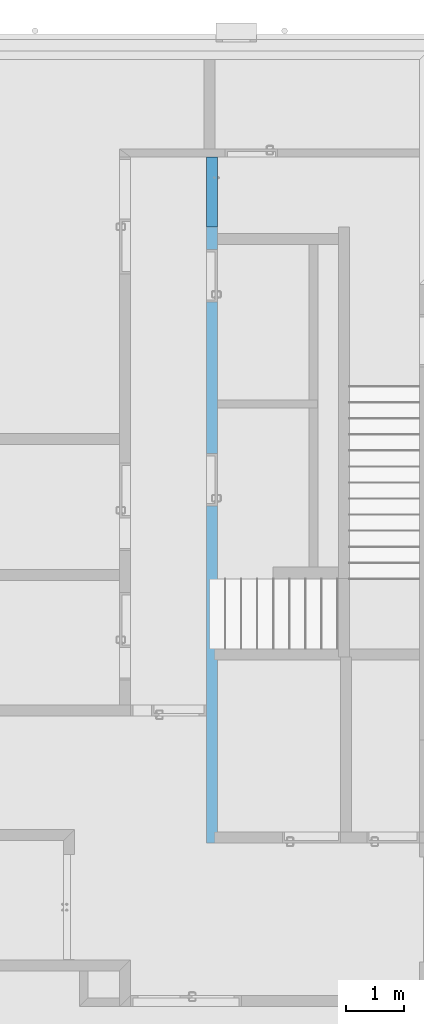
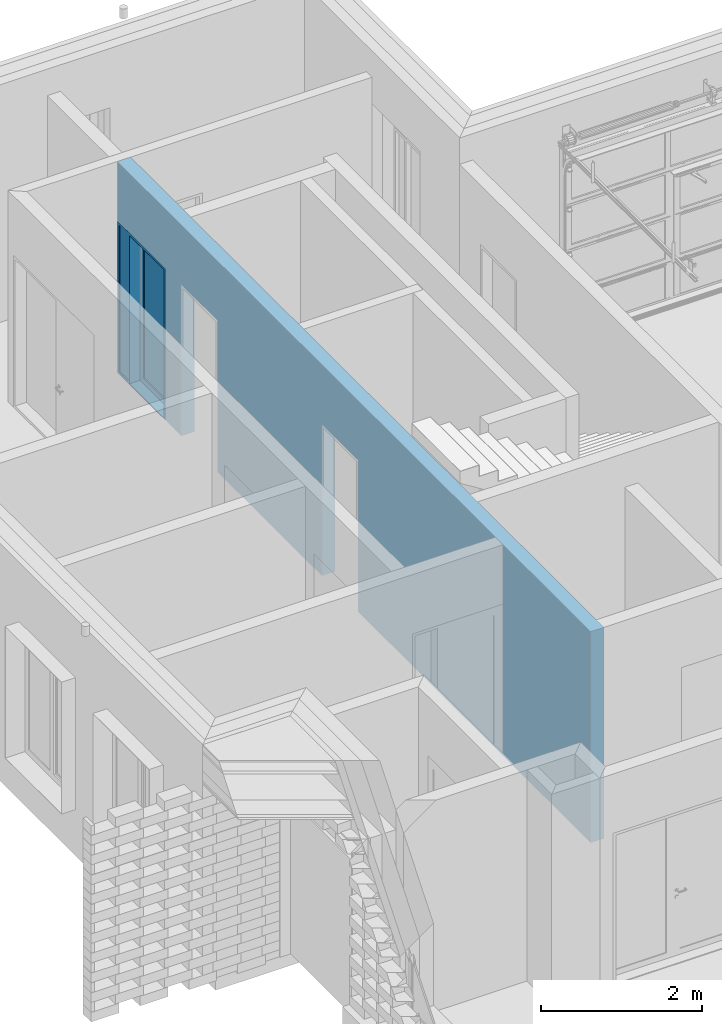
# One storey, part 30 of 62: 1 building element part, 3 openings, 1 element without a shape of its own, plus 1 element that does not belong to this part.
"""IFC2X3 building model written with IfcOpenShell, lengths in millimetres."""

from ifc_helpers import new_model, entity, si_unit, converted_unit, derived_unit, money_unit, direction, frame, origin_with_axes, origin_2d_with_axis, place, context, subcontext, project, spatial, polyline, rectangle, outline, extrude, open_shell, faceted_brep, surface_model, material, layer, layer_set, layer_usage, type_object, element, fill, aggregate, save


model = new_model("IFC2X3")

# Units and contexts
model_context = context("Model", 3, precision=0.01, world=origin_with_axes(), true_north=direction((0.0, 1.0)))
body_context = subcontext(model_context, "Body", "Model", "MODEL_VIEW")
ifc_project = project(units=[si_unit("LENGTHUNIT", "METRE", prefix="MILLI"), si_unit("AREAUNIT", "SQUARE_METRE"), si_unit("VOLUMEUNIT", "CUBIC_METRE"), converted_unit("PLANEANGLEUNIT", "DEGREE", entity("IfcPlaneAngleMeasure", 0.0174532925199), si_unit("PLANEANGLEUNIT", "RADIAN"), dimensions=[0, 0, 0, 0, 0, 0, 0]), si_unit("SOLIDANGLEUNIT", "STERADIAN"), money_unit("EUR"), converted_unit("TIMEUNIT", "Year", entity("IfcTimeMeasure", 31556926.0), si_unit("TIMEUNIT", "SECOND"), dimensions=[0, 0, 1, 0, 0, 0, 0]), si_unit("MASSUNIT", "GRAM", prefix="KILO"), si_unit("THERMODYNAMICTEMPERATUREUNIT", "DEGREE_CELSIUS"), si_unit("LUMINOUSINTENSITYUNIT", "LUMEN"), si_unit("ENERGYUNIT", "JOULE", prefix="MEGA"), derived_unit("THERMALCONDUCTANCEUNIT", [(si_unit("POWERUNIT", "WATT"), 1), (si_unit("LENGTHUNIT", "METRE"), -1), (si_unit("THERMODYNAMICTEMPERATUREUNIT", "KELVIN"), -1)]), derived_unit("SPECIFICHEATCAPACITYUNIT", [(si_unit("ENERGYUNIT", "JOULE"), 1), (si_unit("MASSUNIT", "GRAM", prefix="KILO"), -1), (si_unit("THERMODYNAMICTEMPERATUREUNIT", "KELVIN"), -1)]), derived_unit("MASSDENSITYUNIT", [(si_unit("MASSUNIT", "GRAM", prefix="KILO"), 1), (si_unit("VOLUMEUNIT", "CUBIC_METRE"), -1)])], contexts=[model_context])

# Site, building, storey
site_placement = place(None, origin_with_axes())
site = spatial("IfcSite", under=ifc_project, at=site_placement, Name="KIRDE 14, ELVA", CompositionType="ELEMENT")
building_placement = place(site_placement, origin_with_axes())
building = spatial("IfcBuilding", under=site, at=building_placement, Name="PPA ja Päästeameti ühishoone", CompositionType="ELEMENT")
storey_placement = place(building_placement, origin_with_axes())
storey = spatial("IfcBuildingStorey", under=building, at=storey_placement, Name="Esimene korrus", CompositionType="ELEMENT", Elevation=0.0)

# Wall, openings, door, building element part
ifc_material = material(Name="COLUMBIA KIVI (BETONEERITUD)")
ifc_layer = layer(ifc_material, 190.0, ventilated="UNKNOWN")
ifc_layer_set = layer_set([ifc_layer], Name="SS-02")
ifc_layer_usage = layer_usage(ifc_layer_set, "AXIS2", "NEGATIVE", 190.0)
wall_type = type_object("IfcWallType", Name="SS-02 190", PredefinedType="USERDEFINED")
wall_placement = place(storey_placement, frame((5440.00010282, 11173.3966704, 0.0), z_axis=(0.0, 0.0, 1.0), x_axis=(0.0, 1.0, 0.0)))
wall = element("IfcWallStandardCase", 1, at=wall_placement, inside=storey, type_object=wall_type, material=ifc_layer_usage, Name="SS-02", ObjectType="PARTITIONING", context=body_context, shape_type="SweptSolid", body=[
    extrude(outline(polyline([(0.0, 0.0), (11755.1914193, 0.0), (11755.1914193, 190.0), (0.0, 190.0), (0.0, 0.0)])), origin_with_axes(), (0.0, 0.0, 1.0), 3200.0),
])
opening_1_placement = place(wall_placement, frame((6225.60322713, 0.0, 0.0), z_axis=(0.0, 0.0, 1.0), x_axis=(1.0, 0.0, 0.0)))
element("IfcOpeningElement", 2, at=opening_1_placement, cuts=wall, Name="SU-18*", context=body_context, shape_type="SweptSolid", body=[
    extrude(rectangle(XDim=900.0, YDim=2300.0, at=origin_2d_with_axis()), frame((0.0, 190.0, 1150.0), z_axis=(0.0, 1.0, 0.0), x_axis=(1.0, 0.0, 0.0)), (0.0, 0.0, -1.0), 570.0),
])
opening_2_placement = place(wall_placement, frame((11155.6029627, 0.0, 0.0), z_axis=(0.0, 0.0, 1.0), x_axis=(1.0, 0.0, 0.0)))
opening_2 = element("IfcOpeningElement", 3, at=opening_2_placement, cuts=wall, Name="SU-05", context=body_context, shape_type="SweptSolid", body=[
    extrude(rectangle(XDim=1200.0, YDim=2300.0, at=origin_2d_with_axis()), frame((0.0, 190.0, 1150.0), z_axis=(0.0, -1.0, 0.0), x_axis=(-1.0, 0.0, 0.0)), (0.0, 0.0, 1.0), 570.0),
])
opening_3_placement = place(wall_placement, frame((9719.62798328, 0.0, 0.0), z_axis=(0.0, 0.0, 1.0), x_axis=(1.0, 0.0, 0.0)))
element("IfcOpeningElement", 4, at=opening_3_placement, cuts=wall, Name="SU-32", context=body_context, shape_type="SweptSolid", body=[
    extrude(rectangle(XDim=900.0, YDim=2300.0, at=origin_2d_with_axis()), frame((0.0, 190.0, 1150.0), z_axis=(0.0, 1.0, 0.0), x_axis=(1.0, 0.0, 0.0)), (0.0, 0.0, -1.0), 570.0),
])
door_style = type_object("IfcDoorStyle", Name="Door with Sidelight on Side 2 24", ConstructionType="NOTDEFINED", OperationType="SINGLE_SWING_RIGHT", ParameterTakesPrecedence=False, Sizeable=False)
door_placement = place(opening_2_placement, frame((600.0, 0.0, 0.0), z_axis=(0.0, 0.0, 1.0), x_axis=(-1.0, 0.0, 0.0)))
door = element("IfcDoor", 5, at=door_placement, inside=storey, type_object=door_style, Name="SU-05", ObjectType="DOOR", OverallHeight=2300.0, OverallWidth=1200.0)
fill(opening_2, door)
building_element_part_placement = place(door_placement, origin_with_axes())
building_element_part = element("IfcBuildingElementPart", 6, at=building_element_part_placement, context=body_context, shape_type="SurfaceModel", body=[
    faceted_brep([(1172.0, -40.0, 0.0), (1172.0, -40.0, 12.0), (1160.0, -40.0, 12.0), (1160.0, -40.0, 0.0), (288.0, -40.0, 0.0), (288.0, -40.0, 12.0), (300.0, -40.0, 12.0), (300.0, -115.0, 12.0), (40.0, -115.0, 12.0), (40.0, -190.0, 12.0), (1160.0, -190.0, 12.0), (1160.0, -190.0, 0.0), (40.0, -190.0, 0.0), (40.0, -115.0, 0.0), (300.0, -115.0, 0.0), (300.0, -40.0, 0.0)], [[[0, 1, 2, 3]], [[4, 5, 1, 0]], [[1, 5, 6, 7, 8, 9, 10, 2]], [[3, 2, 10, 11]], [[0, 3, 11, 12, 13, 14, 15, 4]], [[15, 6, 5, 4]], [[14, 7, 6, 15]], [[13, 8, 7, 14]], [[12, 9, 8, 13]], [[11, 10, 9, 12]]]),
    faceted_brep([(0.0, 0.0, 0.0), (40.0, 0.0, 0.0), (40.0, -190.0, 0.0), (0.0, -190.0, 0.0), (0.0, 0.0, 2260.0), (40.0, 0.0, 2260.0), (40.0, 0.0, 40.0), (40.0, -190.0, 40.0), (40.0, -190.0, 2260.0), (0.0, -190.0, 2260.0)], [[[0, 1, 2, 3]], [[0, 4, 5, 6, 1]], [[1, 6, 7, 2]], [[3, 2, 7, 8, 9]], [[4, 0, 3, 9]], [[5, 4, 9, 8]], [[6, 5, 8, 7]]]),
    faceted_brep([(300.0, -40.0, 0.0), (300.0, -40.0, 2260.0), (300.0, -190.0, 2260.0), (300.0, -190.0, 0.0), (288.0, -40.0, 2260.0), (288.0, -40.0, 0.0), (288.0, 0.0, 2260.0), (260.0, 0.0, 2260.0), (260.0, -190.0, 2260.0), (260.0, -190.0, 0.0), (260.0, -190.0, 40.0), (260.0, 0.0, 0.0), (288.0, 0.0, 0.0), (260.0, 0.0, 40.0)], [[[0, 1, 2, 3]], [[4, 1, 0, 5]], [[4, 6, 7, 8, 2, 1]], [[9, 3, 2, 8, 10]], [[5, 0, 3, 9, 11, 12]], [[6, 4, 5, 12]], [[6, 12, 11, 13, 7]], [[13, 10, 8, 7]], [[11, 9, 10, 13]]]),
    faceted_brep([(40.0, 0.0, 40.0), (40.0, 0.0, 0.0), (40.0, -190.0, 0.0), (40.0, -190.0, 40.0), (260.0, 0.0, 40.0), (260.0, 0.0, 0.0), (260.0, -190.0, 0.0), (260.0, -190.0, 40.0)], [[[0, 1, 2, 3]], [[0, 4, 5, 1]], [[1, 5, 6, 2]], [[3, 2, 6, 7]], [[4, 0, 3, 7]], [[5, 4, 7, 6]]]),
    faceted_brep([(1172.0, -40.0, 2260.0), (1160.0, -40.0, 2260.0), (1160.0, -190.0, 2260.0), (1200.0, -190.0, 2260.0), (1200.0, 0.0, 2260.0), (1172.0, 0.0, 2260.0), (1172.0, -40.0, 0.0), (1160.0, -40.0, 0.0), (1160.0, -190.0, 0.0), (1200.0, -190.0, 0.0), (1200.0, 0.0, 0.0), (1172.0, 0.0, 0.0)], [[[0, 1, 2, 3, 4, 5]], [[1, 0, 6, 7]], [[1, 7, 8, 2]], [[3, 2, 8, 9]], [[4, 3, 9, 10]], [[11, 5, 4, 10]], [[0, 5, 11, 6]], [[6, 11, 10, 9, 8, 7]]]),
    faceted_brep([(288.0, 0.0, 2272.0), (288.0, 0.0, 2260.0), (260.0, 0.0, 2260.0), (40.0, 0.0, 2260.0), (0.0, 0.0, 2260.0), (0.0, 0.0, 2300.0), (1200.0, 0.0, 2300.0), (1200.0, 0.0, 2260.0), (1172.0, 0.0, 2260.0), (1172.0, 0.0, 2272.0), (288.0, -40.0, 2272.0), (288.0, -40.0, 2260.0), (1160.0, -40.0, 2260.0), (1160.0, -190.0, 2260.0), (300.0, -190.0, 2260.0), (260.0, -190.0, 2260.0), (40.0, -190.0, 2260.0), (0.0, -190.0, 2260.0), (0.0, -190.0, 2300.0), (1200.0, -190.0, 2300.0), (1200.0, -190.0, 2260.0), (1172.0, -40.0, 2260.0), (1172.0, -40.0, 2272.0)], [[[0, 1, 2, 3, 4, 5, 6, 7, 8, 9]], [[1, 0, 10, 11]], [[11, 12, 13, 14, 15, 2, 1]], [[2, 15, 16, 3]], [[3, 16, 17, 4]], [[4, 17, 18, 5]], [[5, 18, 19, 6]], [[6, 19, 20, 7]], [[21, 8, 7, 20, 13, 12]], [[9, 8, 21, 22]], [[0, 9, 22, 10]], [[21, 12, 11, 10, 22]], [[13, 20, 19, 18, 17, 16, 15, 14]]]),
    faceted_brep([(1172.0, 0.0, 100.0), (1172.0, -40.0, 100.0), (1072.0, -40.0, 100.0), (1072.0, 0.0, 100.0), (1172.0, 0.0, 2172.0), (1172.0, -40.0, 2172.0), (1072.0, -40.0, 2172.0), (1072.0, 0.0, 2172.0)], [[[0, 1, 2, 3]], [[4, 5, 1, 0]], [[1, 5, 6, 2]], [[3, 2, 6, 7]], [[0, 3, 7, 4]], [[7, 6, 5, 4]]]),
    faceted_brep([(288.0, 0.0, 100.0), (288.0, -40.0, 100.0), (288.0, -40.0, 2172.0), (288.0, 0.0, 2172.0), (388.0, 0.0, 100.0), (388.0, -40.0, 100.0), (388.0, -40.0, 2172.0), (388.0, 0.0, 2172.0)], [[[0, 1, 2, 3]], [[4, 5, 1, 0]], [[1, 5, 6, 2]], [[3, 2, 6, 7]], [[0, 3, 7, 4]], [[7, 6, 5, 4]]]),
    faceted_brep([(1172.0, 0.0, 0.0), (1172.0, -40.0, 0.0), (288.0, -40.0, 0.0), (288.0, 0.0, 0.0), (1172.0, 0.0, 100.0), (1172.0, -40.0, 100.0), (1072.0, -40.0, 100.0), (388.0, -40.0, 100.0), (288.0, -40.0, 100.0), (288.0, 0.0, 100.0), (388.0, 0.0, 100.0), (1072.0, 0.0, 100.0)], [[[0, 1, 2, 3]], [[4, 5, 1, 0]], [[1, 5, 6, 7, 8, 2]], [[3, 2, 8, 9]], [[0, 3, 9, 10, 11, 4]], [[11, 6, 5, 4]], [[10, 7, 6, 11]], [[9, 8, 7, 10]]]),
    faceted_brep([(1172.0, 0.0, 2272.0), (1172.0, -40.0, 2272.0), (1172.0, -40.0, 2172.0), (1172.0, 0.0, 2172.0), (288.0, 0.0, 2272.0), (288.0, -40.0, 2272.0), (288.0, -40.0, 2172.0), (388.0, -40.0, 2172.0), (1072.0, -40.0, 2172.0), (1072.0, 0.0, 2172.0), (388.0, 0.0, 2172.0), (288.0, 0.0, 2172.0)], [[[0, 1, 2, 3]], [[4, 5, 1, 0]], [[1, 5, 6, 7, 8, 2]], [[3, 2, 8, 9]], [[0, 3, 9, 10, 11, 4]], [[11, 6, 5, 4]], [[10, 7, 6, 11]], [[9, 8, 7, 10]]]),
    surface_model("IfcShellBasedSurfaceModel", [(1072.0, -14.0, 100.0), (388.0, -14.0, 100.0), (388.0, -14.0, 2172.0), (1072.0, -14.0, 2172.0)], [open_shell([[[0, 1, 2, 3]]])]),
    surface_model("IfcShellBasedSurfaceModel", [(1072.0, -26.0, 100.0), (1072.0, -26.0, 2172.0), (388.0, -26.0, 2172.0), (388.0, -26.0, 100.0)], [open_shell([[[0, 1, 2, 3]]])]),
    surface_model("IfcShellBasedSurfaceModel", [(40.0, -166.0, 40.0), (40.0, -166.0, 2260.0), (260.0, -166.0, 2260.0), (260.0, -166.0, 40.0)], [open_shell([[[0, 1, 2, 3]]])]),
    surface_model("IfcShellBasedSurfaceModel", [(40.0, -178.0, 40.0), (260.0, -178.0, 40.0), (260.0, -178.0, 2260.0), (40.0, -178.0, 2260.0)], [open_shell([[[0, 1, 2, 3]]])]),
])
aggregate(door, [building_element_part])

save(model, "model.ifc")
